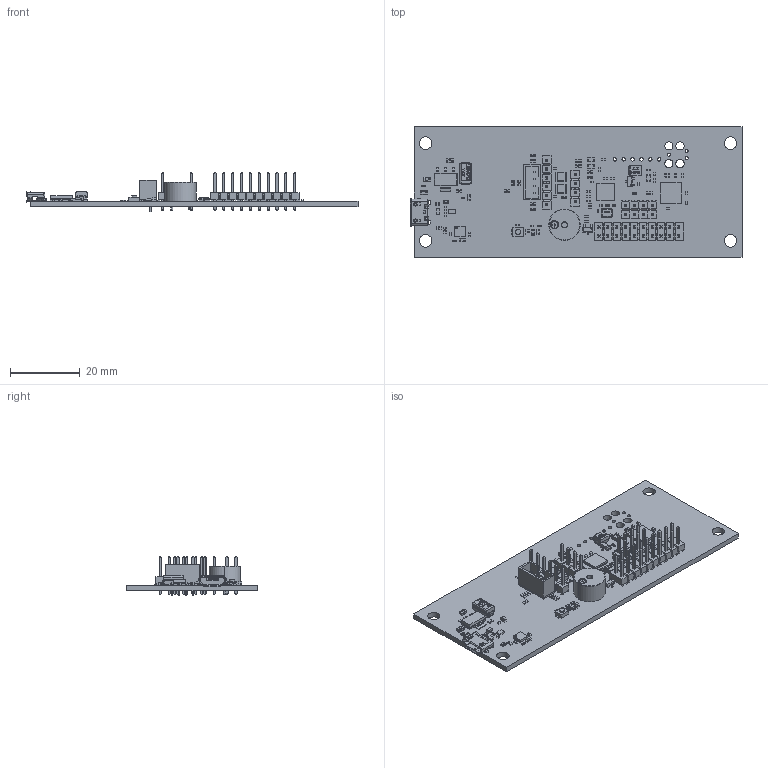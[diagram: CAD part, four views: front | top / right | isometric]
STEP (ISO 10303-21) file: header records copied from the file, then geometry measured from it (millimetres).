
FILE_DESCRIPTION(('Open CASCADE Model'),'2;1');
FILE_NAME('Open CASCADE Shape Model','2018-10-04T15:34:26',('Author'),( 'Open CASCADE'),'Open CASCADE STEP processor 6.8','Open CASCADE 6.8' ,'Unknown');
FILE_SCHEMA(('AUTOMOTIVE_DESIGN { 1 0 10303 214 1 1 1 1 }'));
Length unit declared in the file: millimetre
Products named in the file (156): PCB; Board; R15; User_Library-Chip_Resistor2; U5; 508964048; Extruded; L7; 508964304; C52; cap_0402; C51; J15; TSW-102-07-G-S; _TSW-102-07-G-S_body; _T-1S6-07-TSW-1-07-2-S; J13; J11; 473460001; Open CASCADE STEP translator 6.8 1.9.1.1; Open CASCADE STEP translator 6.8 1.9.1.2; R18; R17; C50; User_Library-AVX_BCASE; BUTTON1; b3u-1000p; BUZ1; BuzzerR45_H55; User_Library-Buzzer_9mm_Fillet003; User_Library-Buzzer_9mm_Pin_+; User_Library-Buzzer_9mm_Pin_-; User_Library-Buzzer_9mm_Membran; C1; C2; User_Library-AVX_C_CASE; C3; User_Library-0805_SMD_Capacitor; C4; User_Library-0603_SMD_Capacitor(1)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
Assembly tree (229 placements, depth 4):
  PCB
    Board
    R15
      User_Library-Chip_Resistor2
    U5
      508964048
        Extruded
    L7
      508964304
        Extruded
    C52
      cap_0402
    C51
      cap_0402
    J15
      TSW-102-07-G-S
        _TSW-102-07-G-S_body
        _T-1S6-07-TSW-1-07-2-S
    J13
      TSW-102-07-G-S
        _TSW-102-07-G-S_body
        _T-1S6-07-TSW-1-07-2-S
    J11
      473460001
        Open CASCADE STEP translator 6.8 1.9.1.1
        Open CASCADE STEP translator 6.8 1.9.1.2
    R18
      User_Library-Chip_Resistor2
    R17
      User_Library-Chip_Resistor2
    C50
      User_Library-AVX_BCASE
    BUTTON1
      b3u-1000p
    BUZ1
      BuzzerR45_H55
        User_Library-Buzzer_9mm_Fillet003
        User_Library-Buzzer_9mm_Pin_+
        User_Library-Buzzer_9mm_Pin_-
        User_Library-Buzzer_9mm_Membran
    C1
      cap_0402
    C2
      User_Library-AVX_C_CASE
    C3
      User_Library-0805_SMD_Capacitor
    C4
      User_Library-0603_SMD_Capacitor(1)
    C5
      User_Library-0805_SMD_Capacitor
    C6
      cap_0402
    C7
      cap_0402
    C8
      cap_0402
    C9
      User_Library-0603_SMD_Capacitor(1)
    C10
      User_Library-0603_SMD_Capacitor(1)
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Bounding box: 95.19 x 37.5 x 11.38 mm (x, y, z)
Volume: 6818.7 mm3; surface area: 12145.7 mm2
Topology: 176 solids, 176 shells, 7586 faces, 18490 edges, 10992 vertices
Faces by surface type: plane 4444, cylinder 1746, bspline 814, sphere 572, torus 8, cone 2
Full cylindrical faces by diameter (mm): 0.8 x4, 0.889 x3, 1 x26, 1.016 x20, 2.362 x4, 3.6 x4
Entity records: 132673 total; most frequent: CARTESIAN_POINT 31847, ORIENTED_EDGE 17020, DIRECTION 15721, EDGE_CURVE 8510, LINE 7089, VECTOR 7089, VERTEX_POINT 5368, AXIS2_PLACEMENT_3D 4316
